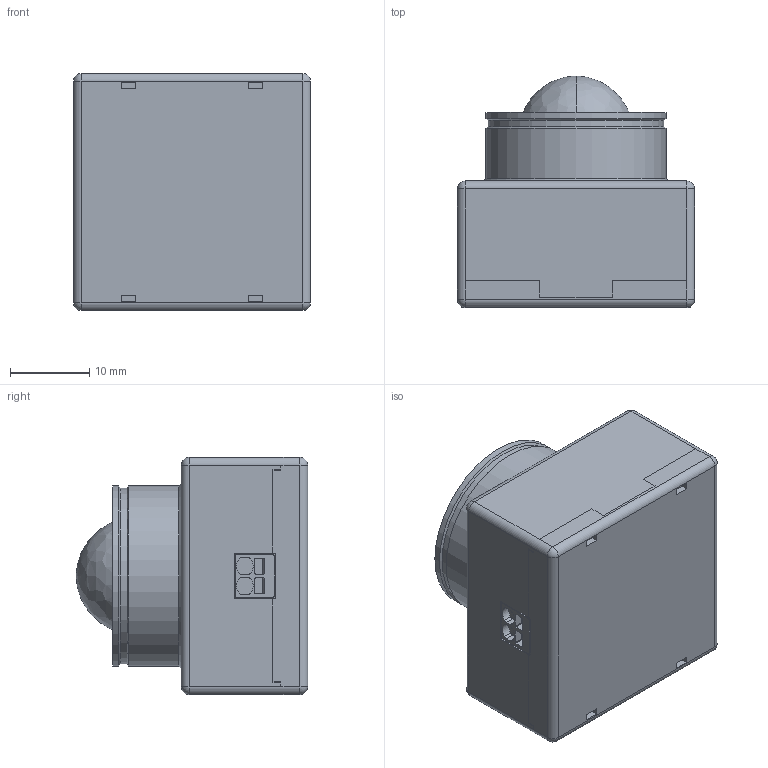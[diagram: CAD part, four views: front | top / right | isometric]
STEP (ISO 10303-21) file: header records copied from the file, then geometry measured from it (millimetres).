
FILE_DESCRIPTION(/* description */ (''),/* implementation_level */ '2;1');
FILE_NAME(/* name */ 'Y:\CAD\80_00_xxx_Projekte\Tridonic\Projekt_WDA-Sensor\CAD_Daten\STEP_Dateien\20210206_für_Datamec\WDA_Sensor_Datamec.stp',/* time_stamp */ '2021-02-06T08:23:38+01:00',/* author */ ('muell'),/* organization */ (''),/* preprocessor_version */ 'ST-DEVELOPER v16.5',/* originating_system */ 'Autodesk Inventor 2017',/* authorisation */ '');
FILE_SCHEMA (('AUTOMOTIVE_DESIGN { 1 0 10303 214 3 1 1 }'));
Length unit declared in the file: millimetre
Products named in the file (1): WDA_Sensor_Datamec
Bounding box: 30 x 29.28 x 30 mm (x, y, z)
Volume: 18157.5 mm3; surface area: 4969.9 mm2
Topology: 1 solids, 27 shells, 326 faces, 726 edges, 468 vertices
Faces by surface type: plane 182, cylinder 68, bspline 50, cone 15, sphere 8, torus 3
Full cylindrical faces by diameter (mm): 15.1 x1, 16.48 x2, 16.7 x1, 20.8 x1, 22.2 x1, 22.8 x2
Entity records: 16035 total; most frequent: CARTESIAN_POINT 8721, DIRECTION 1457, ORIENTED_EDGE 1380, EDGE_CURVE 688, AXIS2_PLACEMENT_3D 524, VERTEX_POINT 460, LINE 409, VECTOR 409
